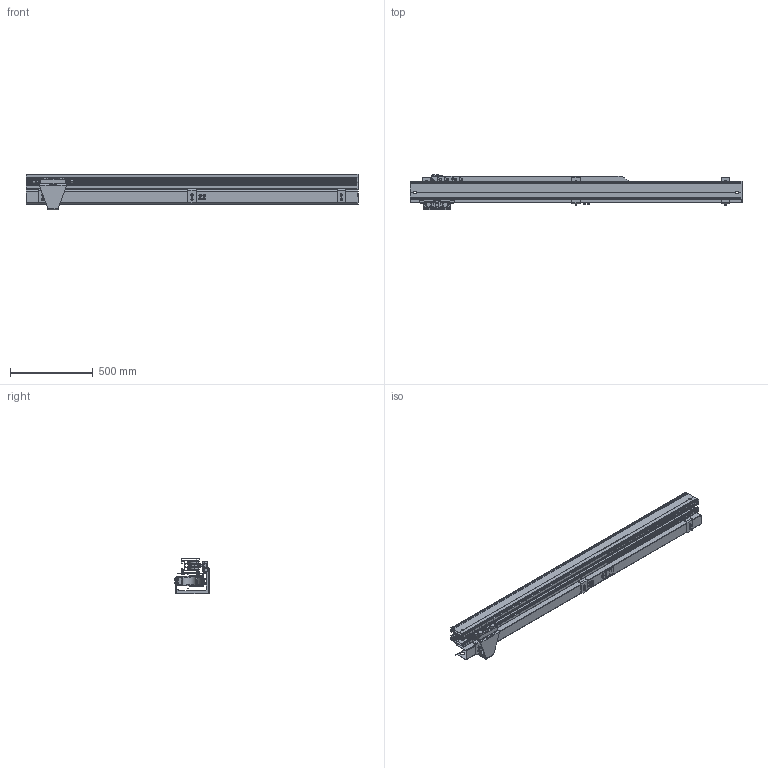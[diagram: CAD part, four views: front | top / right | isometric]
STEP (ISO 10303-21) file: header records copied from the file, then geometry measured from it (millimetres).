
FILE_DESCRIPTION (( 'STEP AP203' ), '1' );
FILE_NAME ('900.040.060.2000.STEP', '2018-02-27T08:24:45', ( '' ), ( '' ), 'SwSTEP 2.0', 'SolidWorks 2016', '' );
FILE_SCHEMA (( 'CONFIG_CONTROL_DESIGN' ));
Length unit declared in the file: millimetre
Products named in the file (33): RONDELLE UNI 6592_6.4x12.5 UNI 6592; 900.200.101-1; RONDELLE UNI 6592_8.4x17 UNI 6592; 5; DADI ESAGONALI AUTOBLOCCANTI UNI 7473_M6 UNI 7473; 900.040.060.2000-L; 900.200.004-2; VITI TE UNI 5739_M20X60 UNI 5739; RONDELLE UNI 6592 INOX_6.4x12.5 UNI 6592 INOX; circlip for shafts normal_din_Circlip DIN 471 - 8 x 0.8; 900.040.060.102; VITI TE UNI 5739_M6x40 UNI 5739; 084.301.000 VITI ALUSIC_084.301.003; 900.200.003-2; 900.040.060.2000; 1; CUSCINETTI A SFERE_6002-2Z; 900.040.060.101_Default<A macchina>; 084.302.000 DADI ALUSIC 13x13-1_084.302.009; 900.200.002-1; GRANI A PUNTA CONICA UNI 5927_M6x16 UNI 5927; 3; PROFILO 110x90_2000<A macchina>; 2; 900.200.005; PUFFER FEMMINA_M6; DADO ESAGONALE M20 AUTOBLOCCANTE_M20 UNI7473; 084.301.000 VITI ALUSIC_084.301.001; CUSCINETTI A SFERE_686-ZZ; 4; VITI TESTA BOMBATA ISO 730 INOX_M6x20 ISO 7380 INOX; 084.301.000 VITI ALUSIC_084.301.011; SR2350400602000
Assembly tree (136 placements, depth 3):
  900.040.060.2000
    900.200.101-1
      900.200.003-2  x8
      900.200.004-2  x2
      900.200.005  x4
      CUSCINETTI A SFERE_6002-2Z  x8
      circlip for shafts normal_din_Circlip DIN 471 - 8 x 0.8  x8
      900.200.002-1
      RONDELLE UNI 6592 INOX_6.4x12.5 UNI 6592 INOX  x4
      CUSCINETTI A SFERE_686-ZZ  x4
      PUFFER FEMMINA_M6  x2
      GRANI A PUNTA CONICA UNI 5927_M6x16 UNI 5927  x2
      VITI TE UNI 5739_M6x40 UNI 5739  x2
    900.040.060.101_Default<A macchina>
    900.040.060.102  x3
    900.040.060.2000-L
    PROFILO 110x90_2000<A macchina>
    VITI TE UNI 5739_M20X60 UNI 5739  x2
    DADO ESAGONALE M20 AUTOBLOCCANTE_M20 UNI7473  x2
    084.302.000 DADI ALUSIC 13x13-1_084.302.009  x6
    VITI TESTA BOMBATA ISO 730 INOX_M6x20 ISO 7380 INOX  x6
    RONDELLE UNI 6592_6.4x12.5 UNI 6592  x28
    DADI ESAGONALI AUTOBLOCCANTI UNI 7473_M6 UNI 7473  x14
    084.301.000 VITI ALUSIC_084.301.011  x4
    084.301.000 VITI ALUSIC_084.301.001  x4
    SR2350400602000
      1
      2
      3
      4
      5
    RONDELLE UNI 6592_8.4x17 UNI 6592  x6
    084.301.000 VITI ALUSIC_084.301.003  x6
Bounding box: 2000 x 211.1 x 216 mm (x, y, z)
Volume: 6953891.3 mm3; surface area: 4714114.2 mm2
Topology: 142 solids, 142 shells, 4698 faces, 11472 edges, 7170 vertices
Faces by surface type: plane 1746, cylinder 1694, cone 510, bspline 390, torus 314, sphere 44
Entity records: 122173 total; most frequent: CARTESIAN_POINT 46860, ORIENTED_EDGE 15144, DIRECTION 13556, EDGE_CURVE 7572, AXIS2_PLACEMENT_3D 4933, VERTEX_POINT 4752, VECTOR 3690, LINE 3690
